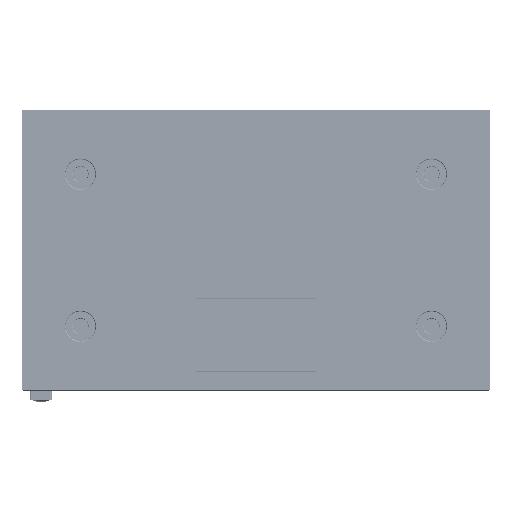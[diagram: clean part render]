
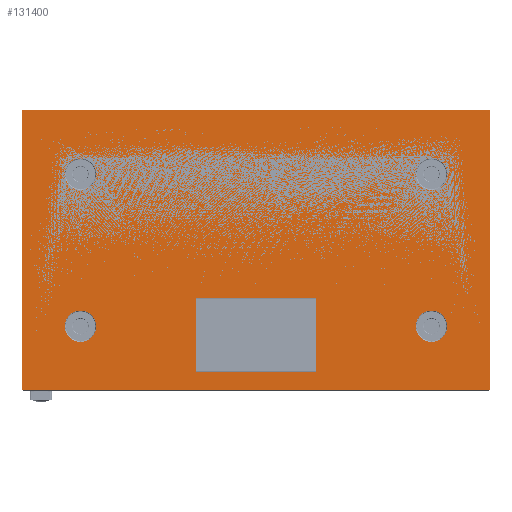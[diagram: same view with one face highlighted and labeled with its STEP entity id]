
A CAD part, front view. The second image highlights one B-rep face of the part: STEP entity #131400.
In plain terms, the highlighted planar face has unit normal (0, -1, 0) as drawn and (0, 0, -1) by its records, which use the part's own axes.
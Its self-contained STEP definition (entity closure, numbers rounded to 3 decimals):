
#851=FACE_BOUND('',#49154,.T.);
#852=FACE_BOUND('',#49155,.T.);
#853=FACE_BOUND('',#49156,.T.);
#854=FACE_BOUND('',#49157,.T.);
#855=FACE_BOUND('',#49158,.T.);
#1569=PLANE('',#138839);
#8103=LINE('',#193115,#22689);
#8104=LINE('',#193119,#22690);
#8105=LINE('',#193121,#22691);
#8106=LINE('',#193123,#22692);
#8107=LINE('',#193135,#22693);
#8108=LINE('',#193137,#22694);
#8109=LINE('',#193139,#22695);
#8110=LINE('',#193140,#22696);
#22689=VECTOR('',#150778,1.);
#22690=VECTOR('',#150783,1.);
#22691=VECTOR('',#150784,1.);
#22692=VECTOR('',#150785,1.);
#22693=VECTOR('',#150796,1.);
#22694=VECTOR('',#150797,1.);
#22695=VECTOR('',#150798,1.);
#22696=VECTOR('',#150799,1.);
#37130=CIRCLE('',#138833,0.3);
#37133=CIRCLE('',#138840,0.3);
#37134=CIRCLE('',#138841,6.716);
#37135=CIRCLE('',#138842,6.716);
#37136=CIRCLE('',#138843,6.716);
#37137=CIRCLE('',#138844,6.716);
#42021=FACE_OUTER_BOUND('',#49153,.T.);
#49153=EDGE_LOOP('',(#91923,#91924,#91925,#91926,#91927,#91928));
#49154=EDGE_LOOP('',(#91929));
#49155=EDGE_LOOP('',(#91930));
#49156=EDGE_LOOP('',(#91931));
#49157=EDGE_LOOP('',(#91932));
#49158=EDGE_LOOP('',(#91933,#91934,#91935,#91936));
#58096=VERTEX_POINT('',#193084);
#58098=VERTEX_POINT('',#193088);
#58108=VERTEX_POINT('',#193114);
#58109=VERTEX_POINT('',#193118);
#58110=VERTEX_POINT('',#193120);
#58111=VERTEX_POINT('',#193122);
#58112=VERTEX_POINT('',#193125);
#58113=VERTEX_POINT('',#193127);
#58114=VERTEX_POINT('',#193129);
#58115=VERTEX_POINT('',#193131);
#58116=VERTEX_POINT('',#193133);
#58117=VERTEX_POINT('',#193134);
#58118=VERTEX_POINT('',#193136);
#58119=VERTEX_POINT('',#193138);
#71361=EDGE_CURVE('',#58098,#58096,#37130,.T.);
#71373=EDGE_CURVE('',#58096,#58108,#8103,.T.);
#71375=EDGE_CURVE('',#58109,#58098,#8104,.T.);
#71376=EDGE_CURVE('',#58110,#58109,#8105,.T.);
#71377=EDGE_CURVE('',#58111,#58110,#8106,.T.);
#71378=EDGE_CURVE('',#58108,#58111,#37133,.T.);
#71379=EDGE_CURVE('',#58112,#58112,#37134,.T.);
#71380=EDGE_CURVE('',#58113,#58113,#37135,.T.);
#71381=EDGE_CURVE('',#58114,#58114,#37136,.T.);
#71382=EDGE_CURVE('',#58115,#58115,#37137,.T.);
#71383=EDGE_CURVE('',#58116,#58117,#8107,.T.);
#71384=EDGE_CURVE('',#58117,#58118,#8108,.T.);
#71385=EDGE_CURVE('',#58118,#58119,#8109,.T.);
#71386=EDGE_CURVE('',#58119,#58116,#8110,.T.);
#91923=ORIENTED_EDGE('',*,*,#71361,.F.);
#91924=ORIENTED_EDGE('',*,*,#71375,.F.);
#91925=ORIENTED_EDGE('',*,*,#71376,.F.);
#91926=ORIENTED_EDGE('',*,*,#71377,.F.);
#91927=ORIENTED_EDGE('',*,*,#71378,.F.);
#91928=ORIENTED_EDGE('',*,*,#71373,.F.);
#91929=ORIENTED_EDGE('',*,*,#71379,.T.);
#91930=ORIENTED_EDGE('',*,*,#71380,.T.);
#91931=ORIENTED_EDGE('',*,*,#71381,.T.);
#91932=ORIENTED_EDGE('',*,*,#71382,.T.);
#91933=ORIENTED_EDGE('',*,*,#71383,.T.);
#91934=ORIENTED_EDGE('',*,*,#71384,.T.);
#91935=ORIENTED_EDGE('',*,*,#71385,.T.);
#91936=ORIENTED_EDGE('',*,*,#71386,.T.);
#131400=ADVANCED_FACE('',(#42021,#851,#852,#853,#854,#855),#1569,.F.);
#138833=AXIS2_PLACEMENT_3D('',#193090,#150758,#150759);
#138839=AXIS2_PLACEMENT_3D('',#193117,#150781,#150782);
#138840=AXIS2_PLACEMENT_3D('',#193124,#150786,#150787);
#138841=AXIS2_PLACEMENT_3D('',#193126,#150788,#150789);
#138842=AXIS2_PLACEMENT_3D('',#193128,#150790,#150791);
#138843=AXIS2_PLACEMENT_3D('',#193130,#150792,#150793);
#138844=AXIS2_PLACEMENT_3D('',#193132,#150794,#150795);
#150758=DIRECTION('center_axis',(0.,0.,1.));
#150759=DIRECTION('ref_axis',(0.707,0.707,0.));
#150778=DIRECTION('',(-1.,0.,0.));
#150781=DIRECTION('center_axis',(0.,0.,1.));
#150782=DIRECTION('ref_axis',(1.,0.,0.));
#150783=DIRECTION('',(0.,1.,0.));
#150784=DIRECTION('',(1.,0.,0.));
#150785=DIRECTION('',(0.,-1.,0.));
#150786=DIRECTION('center_axis',(0.,0.,1.));
#150787=DIRECTION('ref_axis',(-0.707,0.707,0.));
#150788=DIRECTION('center_axis',(0.,0.,1.));
#150789=DIRECTION('ref_axis',(1.,0.,0.));
#150790=DIRECTION('center_axis',(0.,0.,1.));
#150791=DIRECTION('ref_axis',(1.,0.,0.));
#150792=DIRECTION('center_axis',(0.,0.,1.));
#150793=DIRECTION('ref_axis',(1.,0.,0.));
#150794=DIRECTION('center_axis',(0.,0.,1.));
#150795=DIRECTION('ref_axis',(1.,0.,0.));
#150796=DIRECTION('',(0.,1.,0.));
#150797=DIRECTION('',(-1.,0.,0.));
#150798=DIRECTION('',(0.,-1.,0.));
#150799=DIRECTION('',(1.,0.,0.));
#193084=CARTESIAN_POINT('',(99.5,59.8,0.));
#193088=CARTESIAN_POINT('',(99.8,59.5,0.));
#193090=CARTESIAN_POINT('Origin',(99.5,59.5,0.));
#193114=CARTESIAN_POINT('',(-99.5,59.8,0.));
#193115=CARTESIAN_POINT('',(49.,59.8,0.));
#193117=CARTESIAN_POINT('Origin',(0.,0.,
0.));
#193118=CARTESIAN_POINT('',(99.8,-59.8,0.));
#193119=CARTESIAN_POINT('',(99.8,-30.,0.));
#193120=CARTESIAN_POINT('',(-99.8,-59.8,0.));
#193121=CARTESIAN_POINT('',(-49.,-59.8,0.));
#193122=CARTESIAN_POINT('',(-99.8,59.5,0.));
#193123=CARTESIAN_POINT('',(-99.8,30.,0.));
#193124=CARTESIAN_POINT('Origin',(-99.5,59.5,0.));
#193125=CARTESIAN_POINT('',(81.716,-32.5,0.));
#193126=CARTESIAN_POINT('Origin',(75.,-32.5,0.));
#193127=CARTESIAN_POINT('',(81.716,32.5,0.));
#193128=CARTESIAN_POINT('Origin',(75.,32.5,0.));
#193129=CARTESIAN_POINT('',(-68.284,-32.5,0.));
#193130=CARTESIAN_POINT('Origin',(-75.,-32.5,0.));
#193131=CARTESIAN_POINT('',(-68.284,32.5,0.));
#193132=CARTESIAN_POINT('Origin',(-75.,32.5,0.));
#193133=CARTESIAN_POINT('',(25.716,20.593,0.));
#193134=CARTESIAN_POINT('',(25.716,52.025,0.));
#193135=CARTESIAN_POINT('',(25.716,0.,0.));
#193136=CARTESIAN_POINT('',(-25.716,52.025,0.));
#193137=CARTESIAN_POINT('',(0.,52.025,0.));
#193138=CARTESIAN_POINT('',(-25.716,20.593,0.));
#193139=CARTESIAN_POINT('',(-25.716,0.,0.));
#193140=CARTESIAN_POINT('',(0.,20.593,0.));
